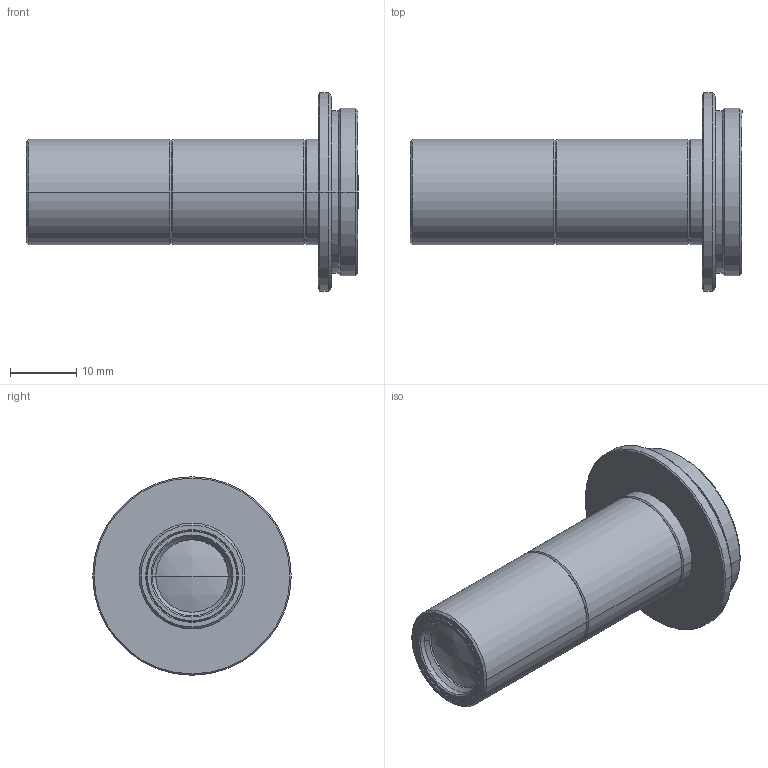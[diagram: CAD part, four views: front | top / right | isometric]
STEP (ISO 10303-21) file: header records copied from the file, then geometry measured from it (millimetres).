
FILE_DESCRIPTION (( 'STEP AP203' ), '1' );
FILE_NAME ('VS-MC03-180.STEP', '2020-09-08T08:09:21', ( '' ), ( '' ), 'SwSTEP 2.0', 'SolidWorks 2020', '' );
FILE_SCHEMA (( 'CONFIG_CONTROL_DESIGN' ));
Length unit declared in the file: millimetre
Products named in the file (1): VS-MC03-180
Bounding box: 50.2 x 30 x 30 mm (x, y, z)
Volume: 7154 mm3; surface area: 5758.2 mm2
Topology: 1 solids, 1 shells, 90 faces, 178 edges, 100 vertices
Faces by surface type: cone 48, cylinder 28, plane 10, sphere 4
Entity records: 2373 total; most frequent: DIRECTION 462, CARTESIAN_POINT 369, ORIENTED_EDGE 356, AXIS2_PLACEMENT_3D 193, EDGE_CURVE 178, CIRCLE 102, EDGE_LOOP 100, VERTEX_POINT 100
